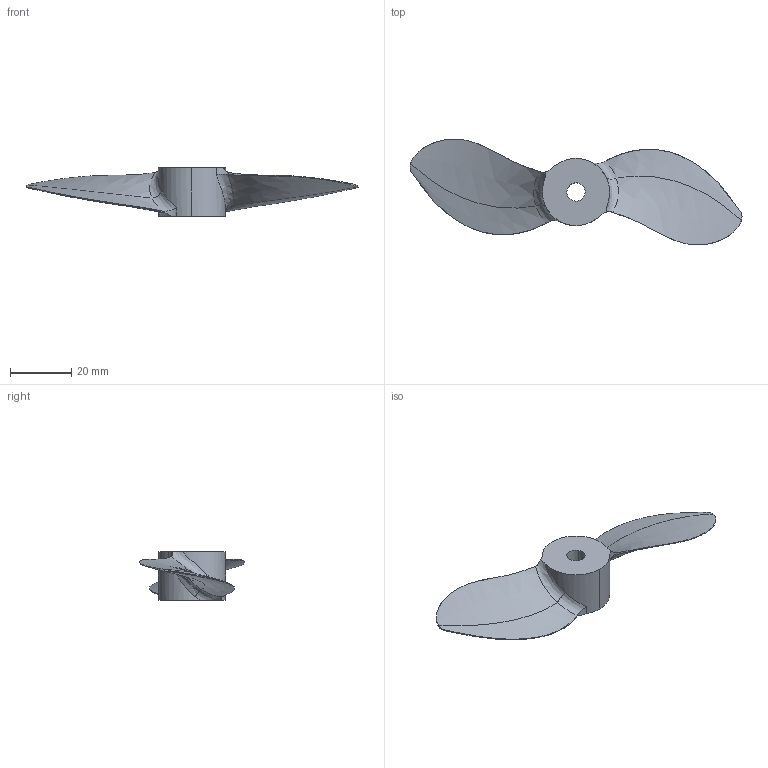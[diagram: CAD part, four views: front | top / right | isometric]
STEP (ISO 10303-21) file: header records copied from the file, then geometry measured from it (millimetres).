
FILE_DESCRIPTION((''),'2;1');
FILE_NAME('BAHA_WINT','2007-12-02T',('lliscr5'),(''),'PRO/ENGINEER BY PARAMETRIC TECHNOLOGY CORPORATION, 2007160','PRO/ENGINEER BY PARAMETRIC TECHNOLOGY CORPORATION, 2007160','');
FILE_SCHEMA(('AUTOMOTIVE_DESIGN_CC2 { 1 2 10303 214 -1 1 5 2 }'));
Length unit declared in the file: millimetre
Products named in the file (1): BAHA_WINT
Bounding box: 108.71 x 34.65 x 16 mm (x, y, z)
Volume: 8826.3 mm3; surface area: 6267.4 mm2
Topology: 1 solids, 1 shells, 30 faces, 82 edges, 54 vertices
Faces by surface type: bspline 16, cylinder 10, plane 2, extrusion 2
Entity records: 3739 total; most frequent: CARTESIAN_POINT 2589, ORIENTED_EDGE 164, PRESENTATION_STYLE_ASSIGNMENT 115, STYLED_ITEM 85, CURVE_STYLE 84, EDGE_CURVE 82, DIRECTION 70, B_SPLINE_CURVE_WITH_KNOTS 56
